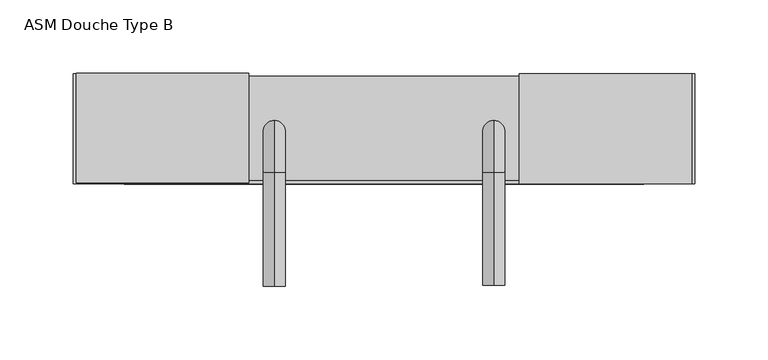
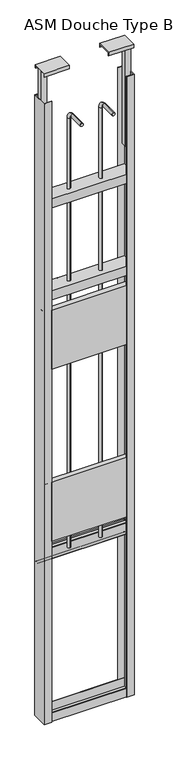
"""IFC4 building model written with IfcOpenShell, lengths in millimetres: flow terminal geometry, NLRS_74_PF_TLB_ASM Douche Type B glijstang-greep_Geberit : ASM Douche Type B."""

from ifc_helpers import new_model, si_unit, point, frame, frame_2d, origin, place, context, project, spatial, polyline, circle_curve, ellipse_curve, trimmed, segment, composite_curve, outline, extrude, faceted_brep, source, transform, mapped, element, save
from ifc_brep_helpers import plane_surface, cylinder_surface, revolved_surface, advanced_brep


def asm_douche_type_b_63ba360f(model_context):
    return source(origin(), model_context, "Body", "SolidModel", [
        extrude(outline(polyline([(1031.0814924, 2.0), (997.0814924, 2.0), (997.0814924, 0.0), (642.0814924, 0.0), (642.0814924, 2.0), (608.0814924, 2.0), (608.0814924, 24.0), (1031.0814924, 24.0), (1031.0814924, 2.0)])), frame((0.0, 0.0, 1712.5), z_axis=(0.0, 0.0, 1.0), x_axis=(1.0, 0.0, 0.0)), (0.0, 0.0, 1.0), 295.0),
        extrude(outline(polyline([(1031.0814924, 2.0), (997.0814924, 2.0), (997.0814924, 0.0), (642.0814924, 0.0), (642.0814924, 2.0), (608.0814924, 2.0), (608.0814924, 24.0), (1031.0814924, 24.0), (1031.0814924, 2.0)])), frame((0.0, 0.0, 852.5), z_axis=(0.0, 0.0, 1.0), x_axis=(1.0, 0.0, 0.0)), (0.0, 0.0, 1.0), 295.0),
        extrude(outline(polyline([(2.5, 2516.0), (2.5, 2560.0), (73.5, 2560.0), (73.5, 2516.0), (71.5, 2516.0), (71.5, 2558.0), (4.5, 2558.0), (4.5, 2516.0), (2.5, 2516.0)])), frame((612.0814924, 0.0, 0.0), z_axis=(1.0, 0.0, 0.0), x_axis=(0.0, 1.0, 0.0)), (0.0, 0.0, 1.0), 415.0),
        extrude(outline(polyline([(2.5, 2056.0), (2.5, 2100.0), (73.5, 2100.0), (73.5, 2056.0), (71.5, 2056.0), (71.5, 2098.0), (4.5, 2098.0), (4.5, 2056.0), (2.5, 2056.0)])), frame((612.0814924, 0.0, 0.0), z_axis=(1.0, 0.0, 0.0), x_axis=(0.0, 1.0, 0.0)), (0.0, 0.0, 1.0), 415.0),
        extrude(outline(polyline([(997.0814924, 0.0), (997.0814924, 2.0), (1030.0814924, 2.0), (1030.0814924, 73.0), (997.0814924, 73.0), (997.0814924, 75.0), (1032.0814924, 75.0), (1032.0814924, 0.0), (997.0814924, 0.0)])), frame((0.0, 0.0, -50.0), z_axis=(0.0, 0.0, 1.0), x_axis=(1.0, 0.0, 0.0)), (0.0, 0.0, 1.0), 3100.0),
        extrude(outline(polyline([(642.0814924, 0.0), (607.0814924, 0.0), (607.0814924, 75.0), (642.0814924, 75.0), (642.0814924, 73.0), (609.0814924, 73.0), (609.0814924, 2.0), (642.0814924, 2.0), (642.0814924, 0.0)])), frame((0.0, 0.0, -50.0), z_axis=(0.0, 0.0, 1.0), x_axis=(1.0, 0.0, 0.0)), (0.0, 0.0, 1.0), 3100.0),
        extrude(outline(polyline([(2.0, -6.0), (4.0, -6.0), (4.0, -48.0), (71.0, -48.0), (71.0, -6.0), (73.0, -6.0), (73.0, -50.0), (2.0, -50.0), (2.0, -6.0)])), frame((612.0814924, 0.0, 0.0), z_axis=(1.0, 0.0, 0.0), x_axis=(0.0, 1.0, 0.0)), (0.0, 0.0, 1.0), 415.0),
        faceted_brep([(912.0814924, 0.0, 3183.0), (912.0814924, 0.0, 3200.0), (912.0814924, 75.0, 3200.0), (912.0814924, 75.0, 3183.0), (912.0814924, 73.0, 3183.0), (912.0814924, 73.0, 3198.0), (912.0814924, 2.0, 3198.0), (912.0814924, 2.0, 3183.0), (1030.0814924, 0.0, 3183.0), (1030.0814924, 2.0, 3183.0), (1030.0814924, 2.0, 3198.0), (1030.0814924, 25.0, 3198.0), (1030.0814924, 25.0, 2683.0), (1030.0814924, 50.0, 2683.0), (1030.0814924, 50.0, 3198.0), (1030.0814924, 73.0, 3198.0), (1030.0814924, 73.0, 3183.0), (1030.0814924, 75.0, 3183.0), (1030.0814924, 75.0, 3200.0), (1030.0814924, 0.0, 3200.0), (1005.0814924, 50.0, 3198.0), (1005.0814924, 25.0, 3198.0), (1005.0814924, 25.0, 2683.0), (1005.0814924, 50.0, 2683.0)], [[[0, 1, 2, 3, 4, 5, 6, 7]], [[8, 9, 10, 11, 12, 13, 14, 15, 16, 17, 18, 19]], [[0, 7, 9, 8]], [[7, 6, 10, 9]], [[6, 5, 15, 14, 20, 21, 11, 10]], [[5, 4, 16, 15]], [[4, 3, 17, 16]], [[3, 2, 18, 17]], [[2, 1, 19, 18]], [[1, 0, 8, 19]], [[22, 23, 13, 12]], [[22, 12, 11, 21]], [[13, 23, 20, 14]], [[23, 22, 21, 20]]]),
        faceted_brep([(727.0814924, 0.5, 3183.0), (727.0814924, 2.5, 3183.0), (727.0814924, 2.5, 3198.0), (727.0814924, 73.5, 3198.0), (727.0814924, 73.5, 3183.0), (727.0814924, 75.5, 3183.0), (727.0814924, 75.5, 3200.0), (727.0814924, 0.5, 3200.0), (609.0814924, 0.5, 3183.0), (609.0814924, 0.5, 3200.0), (609.0814924, 75.5, 3200.0), (609.0814924, 75.5, 3183.0), (609.0814924, 73.5, 3183.0), (609.0814924, 73.5, 3198.0), (609.0814924, 50.5, 3198.0), (609.0814924, 50.5, 2683.0), (609.0814924, 25.5, 2683.0), (609.0814924, 25.5, 3198.0), (609.0814924, 2.5, 3198.0), (609.0814924, 2.5, 3183.0), (634.0814924, 25.5, 3198.0), (634.0814924, 50.5, 3198.0), (634.0814924, 25.5, 2683.0), (634.0814924, 50.5, 2683.0)], [[[0, 1, 2, 3, 4, 5, 6, 7]], [[8, 9, 10, 11, 12, 13, 14, 15, 16, 17, 18, 19]], [[0, 8, 19, 1]], [[1, 19, 18, 2]], [[2, 18, 17, 20, 21, 14, 13, 3]], [[3, 13, 12, 4]], [[4, 12, 11, 5]], [[5, 11, 10, 6]], [[6, 10, 9, 7]], [[7, 9, 8, 0]], [[22, 16, 15, 23]], [[22, 20, 17, 16]], [[15, 14, 21, 23]], [[23, 21, 20, 22]]]),
        advanced_brep(
        [(894.5814924, 28.1893191, 768.0), (894.5814924, 43.1893191, 768.0), (894.5814924, 28.1893191, 2912.0), (894.5814924, 43.1893191, 2912.0), (894.5814924, 7.6893191, 2947.5), (894.5814924, 7.6893191, 2932.5), (894.5814924, -69.5, 2932.5), (894.5814924, -69.5, 2947.5)],
        [
            (0, 1, circle_curve(frame((894.5814924, 35.6893191, 768.0), z_axis=(0.0, 0.0, -1.0), x_axis=(0.0, 1.0, 0.0)), 7.5)),
            (1, 0, circle_curve(frame((894.5814924, 35.6893191, 768.0), z_axis=(0.0, 0.0, -1.0), x_axis=(0.0, 1.0, 0.0)), 7.5)),
            (0, 2),
            (2, 3, circle_curve(frame((894.5814924, 35.6893191, 2912.0), z_axis=(0.0, 0.0, -1.0), x_axis=(0.0, 1.0, 0.0)), 7.5)),
            (3, 1),
            (3, 2, circle_curve(frame((894.5814924, 35.6893191, 2912.0), z_axis=(0.0, 0.0, -1.0), x_axis=(0.0, 1.0, 0.0)), 7.5)),
            (4, 3, circle_curve(frame((894.5814924, 7.6893191, 2912.0), z_axis=(-1.0, 0.0, 0.0), x_axis=(0.0, 1.0, 0.0)), 35.5)),
            (2, 5, circle_curve(frame((894.5814924, 7.6893191, 2912.0), z_axis=(1.0, 0.0, 0.0), x_axis=(0.0, 1.0, 0.0)), 20.5)),
            (5, 4, circle_curve(frame((894.5814924, 7.6893191, 2940.0), z_axis=(0.0, 1.0, 0.0), x_axis=(0.0, 0.0, 1.0)), 7.5)),
            (4, 5, circle_curve(frame((894.5814924, 7.6893191, 2940.0), z_axis=(0.0, 1.0, 0.0), x_axis=(0.0, 0.0, 1.0)), 7.5)),
            (6, 7, circle_curve(frame((894.5814924, -69.5, 2940.0), z_axis=(0.0, -1.0, 0.0), x_axis=(0.0, 0.0, 1.0)), 7.5)),
            (7, 6, circle_curve(frame((894.5814924, -69.5, 2940.0), z_axis=(0.0, -1.0, 0.0), x_axis=(0.0, 0.0, 1.0)), 7.5)),
            (5, 6),
            (7, 4),
        ],
        [
            plane_surface(frame((894.5814924, 35.6893191, 768.0), z_axis=(0.0, 0.0, -1.0), x_axis=(-1.0, 0.0, 0.0))),
            cylinder_surface(frame((894.5814924, 35.6893191, 768.0), z_axis=(0.0, 0.0, -1.0), x_axis=(0.0, 1.0, 0.0)), 7.5),
            revolved_surface(trimmed(ellipse_curve(frame((894.5814924, 35.6893191, 2912.0), z_axis=(0.0, 0.0, -1.0), x_axis=(0.0, 1.0, 0.0)), 7.5, 7.5), [point((894.5814924, 28.1893191, 2912.0))], [point((894.5814924, 43.1893191, 2912.0))], True, "CARTESIAN"), (894.5814924, 7.6893191, 2912.0), (1.0, 0.0, 0.0)),
            revolved_surface(trimmed(ellipse_curve(frame((894.5814924, 35.6893191, 2912.0), z_axis=(0.0, 0.0, -1.0), x_axis=(0.0, 1.0, 0.0)), 7.5, 7.5), [point((894.5814924, 43.1893191, 2912.0))], [point((894.5814924, 28.1893191, 2912.0))], True, "CARTESIAN"), (894.5814924, 7.6893191, 2912.0), (1.0, 0.0, 0.0)),
            plane_surface(frame((894.5814924, -69.5, 2940.0), z_axis=(0.0, -1.0, 0.0), x_axis=(-1.0, 0.0, 0.0))),
            cylinder_surface(frame((894.5814924, 7.6893191, 2940.0), z_axis=(0.0, 1.0, 0.0), x_axis=(0.0, 0.0, 1.0)), 7.5),
        ],
        [
            (0, [[1, 2]]),
            (1, [[-1, 3, 4, 5]]),
            (1, [[-2, -5, 6, -3]]),
            (2, [[7, -4, 8, 9]]),
            (3, [[-8, -6, -7, 10]]),
            (4, [[11, 12]]),
            (5, [[-9, 13, -12, 14]]),
            (5, [[-10, -14, -11, -13]]),
        ],
    ),
        advanced_brep(
        [(744.5814924, 28.1893191, 768.0), (744.5814924, 43.1893191, 768.0), (744.5814924, 28.1893191, 2912.0), (744.5814924, 43.1893191, 2912.0), (744.5814924, 7.6893191, 2947.5), (744.5814924, 7.6893191, 2932.5), (744.5814924, -70.0, 2932.5), (744.5814924, -70.0, 2947.5)],
        [
            (0, 1, circle_curve(frame((744.5814924, 35.6893191, 768.0), z_axis=(0.0, 0.0, -1.0), x_axis=(0.0, 1.0, 0.0)), 7.5)),
            (1, 0, circle_curve(frame((744.5814924, 35.6893191, 768.0), z_axis=(0.0, 0.0, -1.0), x_axis=(0.0, 1.0, 0.0)), 7.5)),
            (0, 2),
            (2, 3, circle_curve(frame((744.5814924, 35.6893191, 2912.0), z_axis=(0.0, 0.0, -1.0), x_axis=(0.0, 1.0, 0.0)), 7.5)),
            (3, 1),
            (3, 2, circle_curve(frame((744.5814924, 35.6893191, 2912.0), z_axis=(0.0, 0.0, -1.0), x_axis=(0.0, 1.0, 0.0)), 7.5)),
            (4, 3, circle_curve(frame((744.5814924, 7.6893191, 2912.0), z_axis=(-1.0, 0.0, 0.0), x_axis=(0.0, 1.0, 0.0)), 35.5)),
            (2, 5, circle_curve(frame((744.5814924, 7.6893191, 2912.0), z_axis=(1.0, 0.0, 0.0), x_axis=(0.0, 1.0, 0.0)), 20.5)),
            (5, 4, circle_curve(frame((744.5814924, 7.6893191, 2940.0), z_axis=(0.0, 1.0, 0.0), x_axis=(0.0, 0.0, 1.0)), 7.5)),
            (4, 5, circle_curve(frame((744.5814924, 7.6893191, 2940.0), z_axis=(0.0, 1.0, 0.0), x_axis=(0.0, 0.0, 1.0)), 7.5)),
            (6, 7, circle_curve(frame((744.5814924, -70.0, 2940.0), z_axis=(0.0, -1.0, 0.0), x_axis=(0.0, 0.0, 1.0)), 7.5)),
            (7, 6, circle_curve(frame((744.5814924, -70.0, 2940.0), z_axis=(0.0, -1.0, 0.0), x_axis=(0.0, 0.0, 1.0)), 7.5)),
            (5, 6),
            (7, 4),
        ],
        [
            plane_surface(frame((819.5814924, 35.6893191, 768.0), z_axis=(0.0, 0.0, -1.0), x_axis=(-1.0, 0.0, 0.0))),
            cylinder_surface(frame((744.5814924, 35.6893191, 768.0), z_axis=(0.0, 0.0, -1.0), x_axis=(0.0, 1.0, 0.0)), 7.5),
            revolved_surface(trimmed(ellipse_curve(frame((744.5814924, 35.6893191, 2912.0), z_axis=(0.0, 0.0, -1.0), x_axis=(0.0, 1.0, 0.0)), 7.5, 7.5), [point((744.5814924, 28.1893191, 2912.0))], [point((744.5814924, 43.1893191, 2912.0))], True, "CARTESIAN"), (819.5814924, 7.6893191, 2912.0), (1.0, 0.0, 0.0)),
            revolved_surface(trimmed(ellipse_curve(frame((744.5814924, 35.6893191, 2912.0), z_axis=(0.0, 0.0, -1.0), x_axis=(0.0, 1.0, 0.0)), 7.5, 7.5), [point((744.5814924, 43.1893191, 2912.0))], [point((744.5814924, 28.1893191, 2912.0))], True, "CARTESIAN"), (819.5814924, 7.6893191, 2912.0), (1.0, 0.0, 0.0)),
            plane_surface(frame((819.5814924, -70.0, 2940.0), z_axis=(0.0, -1.0, 0.0), x_axis=(-1.0, 0.0, 0.0))),
            cylinder_surface(frame((744.5814924, 7.6893191, 2940.0), z_axis=(0.0, 1.0, 0.0), x_axis=(0.0, 0.0, 1.0)), 7.5),
        ],
        [
            (0, [[1, 2]]),
            (1, [[-1, 3, 4, 5]]),
            (1, [[-2, -5, 6, -3]]),
            (2, [[7, -4, 8, 9]]),
            (3, [[-8, -6, -7, 10]]),
            (4, [[11, 12]]),
            (5, [[-9, 13, -12, 14]]),
            (5, [[-10, -14, -11, -13]]),
        ],
    ),
        extrude(outline(composite_curve([segment(trimmed(circle_curve(frame_2d((71.3732031, 779.0160249)), 2.1267969), [point((73.5, 779.0160249))], [point((71.3732031, 776.889228))], False, "CARTESIAN"), True, "CONTINUOUS"), segment(polyline([(71.3732031, 776.889228), (56.3732031, 776.889228)]), True, "CONTINUOUS"), segment(trimmed(circle_curve(frame_2d((56.3732031, 776.2053441)), 0.683884), [point((56.3732031, 776.889228))], [point((55.6893191, 776.2053441))], True, "CARTESIAN"), True, "CONTINUOUS"), segment(polyline([(55.6893191, 776.2053441), (55.6893191, 723.7713196)]), True, "CONTINUOUS"), segment(trimmed(circle_curve(frame_2d((56.3874999, 723.7713196)), 0.6981808), [point((55.6893191, 723.7713196))], [point((56.3874999, 723.0731388))], True, "CARTESIAN"), True, "CONTINUOUS"), segment(polyline([(56.3874999, 723.0731388), (71.3874999, 723.0731388)]), True, "CONTINUOUS"), segment(trimmed(circle_curve(frame_2d((71.3874999, 720.9606387)), 2.1125001), [point((71.3874999, 723.0731388))], [point((73.5, 720.9606387))], False, "CARTESIAN"), True, "CONTINUOUS"), segment(polyline([(73.5, 720.9606387), (73.5, 714.0), (71.5, 714.0), (71.5, 720.3374716)]), True, "CONTINUOUS"), segment(trimmed(circle_curve(frame_2d((70.7643328, 720.3374716)), 0.7356672), [point((71.5, 720.3374716))], [point((70.7643328, 721.0731388))], True, "CARTESIAN"), True, "CONTINUOUS"), segment(polyline([(70.7643328, 721.0731388), (55.7863096, 721.0731388)]), True, "CONTINUOUS"), segment(trimmed(circle_curve(frame_2d((55.7863096, 723.1701292)), 2.0969904), [point((55.7863096, 721.0731388))], [point((53.6893191, 723.1701292))], False, "CARTESIAN"), True, "CONTINUOUS"), segment(polyline([(53.6893191, 723.1701292), (53.6893191, 776.7922376)]), True, "CONTINUOUS"), segment(trimmed(circle_curve(frame_2d((55.7863096, 776.7922376)), 2.0969904), [point((53.6893191, 776.7922376))], [point((55.7863096, 778.889228))], False, "CARTESIAN"), True, "CONTINUOUS"), segment(polyline([(55.7863096, 778.889228), (70.7904457, 778.889228)]), True, "CONTINUOUS"), segment(trimmed(circle_curve(frame_2d((70.7904457, 779.5987824)), 0.7095543), [point((70.7904457, 778.889228))], [point((71.5, 779.5987824))], True, "CARTESIAN"), True, "CONTINUOUS"), segment(polyline([(71.5, 779.5987824), (71.5, 786.0), (73.5, 786.0), (73.5, 779.0160249)]), True, "CONTINUOUS")], self_intersect=False)), frame((609.5814924, 0.0, 0.0), z_axis=(1.0, 0.0, 0.0), x_axis=(0.0, 1.0, 0.0)), (0.0, 0.0, 1.0), 420.0),
    ])


if __name__ == "__main__":
    model = new_model("IFC4")
    model_context = context("Model", 3, world=origin())
    ifc_project = project(units=[si_unit("LENGTHUNIT", "METRE", prefix="MILLI")], contexts=[model_context])
    site = spatial("IfcSite", under=ifc_project)
    building = spatial("IfcBuilding", under=site)
    placement = place(None, origin())
    asm_douche_type_b_shape = asm_douche_type_b_63ba360f(model_context)
    element("IfcFlowTerminal", 1, ObjectType="NLRS_74_PF_TLB_ASM Douche Type B glijstang-greep_Geberit : ASM Douche Type B", at=placement, inside=building, context=model_context, shape_type="MappedRepresentation", body=[
        mapped(asm_douche_type_b_shape, transform((0.0, 0.0, 0.0), x_axis=(1.0, 0.0, 0.0), y_axis=(0.0, 1.0, 0.0), z_axis=(0.0, 0.0, 1.0))),
    ])
    save(model, "model.ifc")
